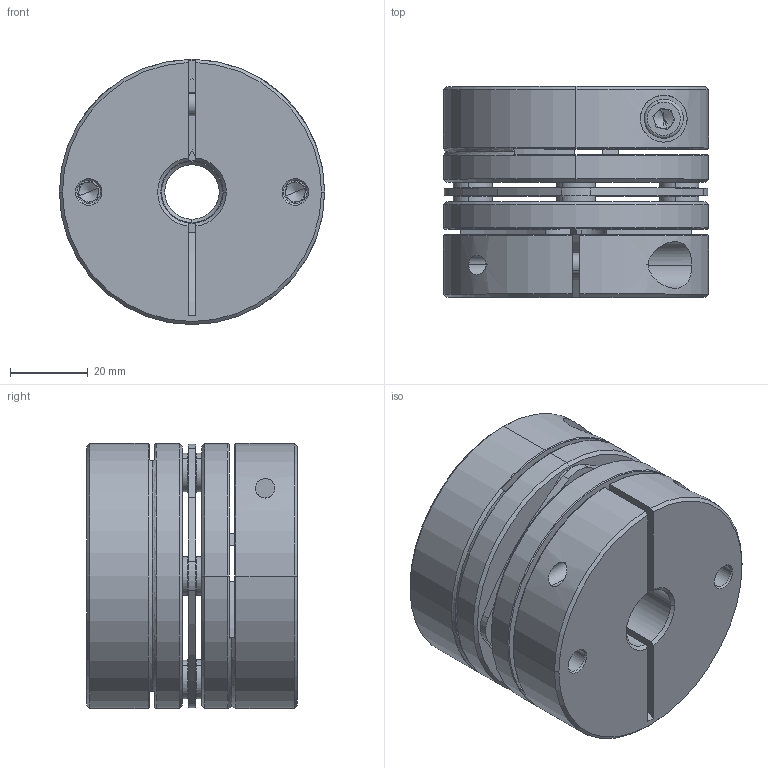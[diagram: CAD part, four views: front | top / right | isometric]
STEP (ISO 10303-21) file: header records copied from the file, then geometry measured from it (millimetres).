
FILE_DESCRIPTION (( 'STEP AP203' ), '1' );
FILE_NAME ('LD1-D68-14-16.STEP', '2021-10-26T07:41:31', ( '' ), ( '' ), 'SwSTEP 2.0', 'SolidWorks 2018', '' );
FILE_SCHEMA (( 'CONFIG_CONTROL_DESIGN' ));
Length unit declared in the file: millimetre
Products named in the file (2): 錨璃101^LD1-D68; LD1-D68-14-16
Assembly tree (1 placements, depth 2):
  LD1-D68-14-16
    錨璃101^LD1-D68
Bounding box: 68 x 54 x 68 mm (x, y, z)
Volume: 157187 mm3; surface area: 47376.9 mm2
Topology: 1 solids, 15 shells, 445 faces, 1079 edges, 662 vertices
Faces by surface type: cylinder 161, plane 140, cone 122, torus 22
Entity records: 13633 total; most frequent: CARTESIAN_POINT 2640, DIRECTION 2465, ORIENTED_EDGE 2126, EDGE_CURVE 1063, AXIS2_PLACEMENT_3D 999, VERTEX_POINT 662, CIRCLE 550, EDGE_LOOP 525
